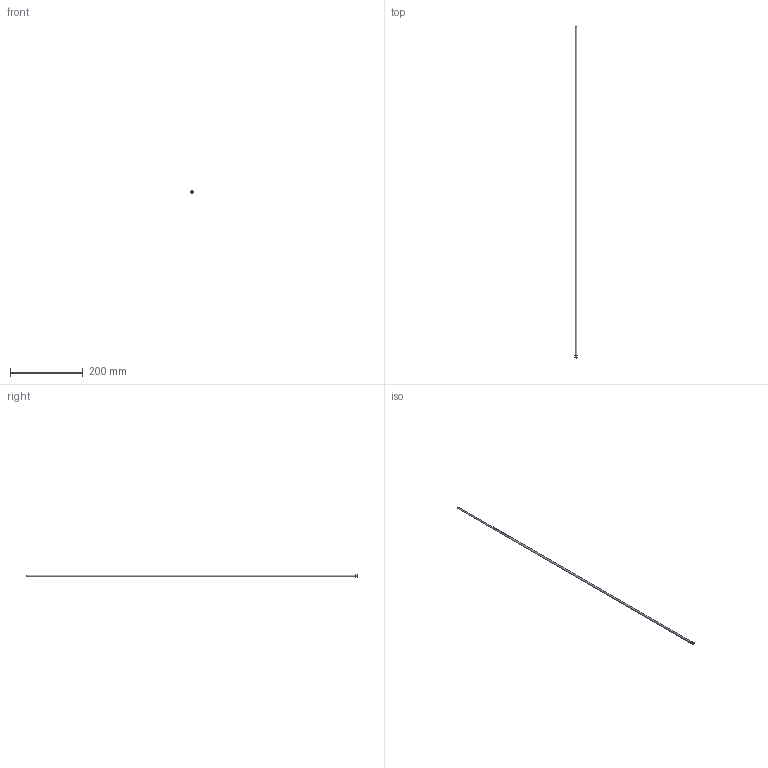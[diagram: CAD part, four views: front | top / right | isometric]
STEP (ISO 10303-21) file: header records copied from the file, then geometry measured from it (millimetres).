
FILE_DESCRIPTION(/* description */ (''),/* implementation_level */ '2;1');
FILE_NAME(/* name */ 'C:/Users/drich/Desktop/JHF187T-36 v1.step',/* time_stamp */ '2020-01-02T20:06:58-06:00',/* author */ (''),/* organization */ (''),/* preprocessor_version */ 'ST-DEVELOPER v18',/* originating_system */ 'Autodesk Translation Framework v8.12.0.6',/* authorisation */ '');
FILE_SCHEMA (('AUTOMOTIVE_DESIGN { 1 0 10303 214 3 1 1 }'));
Length unit declared in the file: inch
Products named in the file (1): JHF187T-36
Bounding box: 7.98 x 914.4 x 7.98 mm (x, y, z)
Volume: 3505.3 mm3; surface area: 25964 mm2
Topology: 1 solids, 1 shells, 10 faces, 24 edges, 18 vertices
Faces by surface type: cylinder 4, plane 4, cone 1, torus 1
Full cylindrical faces by diameter (mm): 4.242 x1, 4.75 x1, 7.846 x1, 7.976 x1
Entity records: 354 total; most frequent: DIRECTION 65, CARTESIAN_POINT 53, ORIENTED_EDGE 48, AXIS2_PLACEMENT_3D 30, EDGE_CURVE 24, CIRCLE 19, VERTEX_POINT 18, EDGE_LOOP 14
